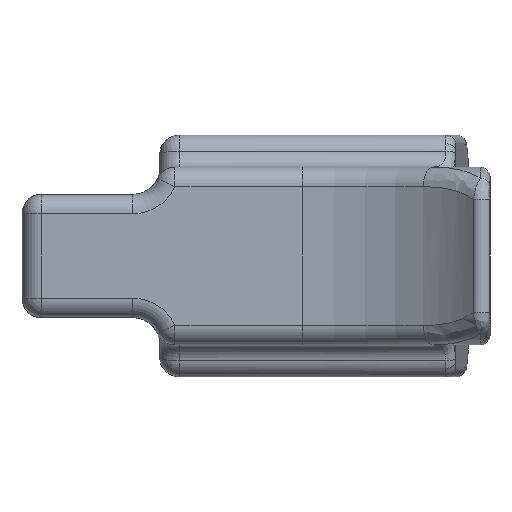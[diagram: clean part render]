
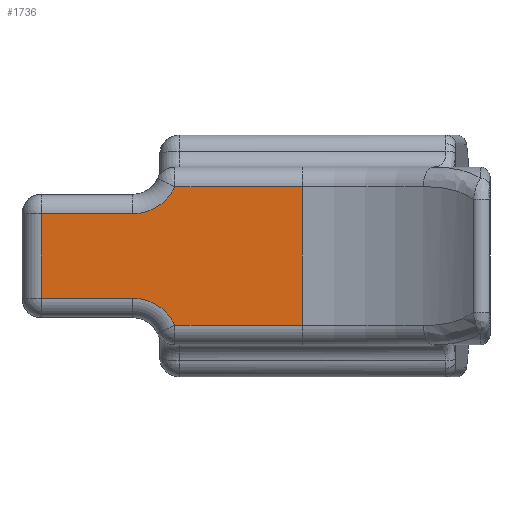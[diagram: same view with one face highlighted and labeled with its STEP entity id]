
A CAD part, left-side view. The second image highlights one B-rep face of the part: STEP entity #1736.
In plain terms, the highlighted planar face has unit normal (-1, 0, 0).
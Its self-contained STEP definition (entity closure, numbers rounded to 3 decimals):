
#34=PLANE('',#1958);
#59=LINE('',#3181,#142);
#67=LINE('',#3288,#150);
#69=LINE('',#3298,#152);
#71=LINE('',#3311,#154);
#72=LINE('',#3324,#155);
#74=LINE('',#3330,#157);
#142=VECTOR('',#2183,10.);
#150=VECTOR('',#2211,10.);
#152=VECTOR('',#2221,10.);
#154=VECTOR('',#2237,10.);
#155=VECTOR('',#2252,10.);
#157=VECTOR('',#2262,10.);
#405=FACE_OUTER_BOUND('',#526,.T.);
#526=EDGE_LOOP('',(#1421,#1422,#1423,#1424,#1425,#1426,#1427,#1428));
#627=CIRCLE('',#1879,2.401);
#632=CIRCLE('',#1886,2.401);
#758=VERTEX_POINT('',#3178);
#759=VERTEX_POINT('',#3180);
#768=VERTEX_POINT('',#3285);
#769=VERTEX_POINT('',#3291);
#772=VERTEX_POINT('',#3296);
#774=VERTEX_POINT('',#3305);
#778=VERTEX_POINT('',#3314);
#779=VERTEX_POINT('',#3316);
#930=EDGE_CURVE('',#759,#758,#59,.T.);
#947=EDGE_CURVE('',#759,#768,#67,.T.);
#951=EDGE_CURVE('',#772,#769,#69,.T.);
#953=EDGE_CURVE('',#768,#772,#627,.T.);
#958=EDGE_CURVE('',#769,#774,#71,.T.);
#960=EDGE_CURVE('',#778,#779,#632,.T.);
#964=EDGE_CURVE('',#774,#778,#72,.T.);
#968=EDGE_CURVE('',#779,#758,#74,.T.);
#1421=ORIENTED_EDGE('',*,*,#947,.F.);
#1422=ORIENTED_EDGE('',*,*,#930,.T.);
#1423=ORIENTED_EDGE('',*,*,#968,.F.);
#1424=ORIENTED_EDGE('',*,*,#960,.F.);
#1425=ORIENTED_EDGE('',*,*,#964,.F.);
#1426=ORIENTED_EDGE('',*,*,#958,.F.);
#1427=ORIENTED_EDGE('',*,*,#951,.F.);
#1428=ORIENTED_EDGE('',*,*,#953,.F.);
#1736=ADVANCED_FACE('',(#405),#34,.F.);
#1879=AXIS2_PLACEMENT_3D('',#3302,#2226,#2227);
#1886=AXIS2_PLACEMENT_3D('',#3317,#2242,#2243);
#1958=AXIS2_PLACEMENT_3D('',#3573,#2417,#2418);
#2183=DIRECTION('',(0.,0.,1.));
#2211=DIRECTION('',(0.,1.,0.));
#2221=DIRECTION('',(0.,1.,0.));
#2226=DIRECTION('center_axis',(-1.,0.,0.));
#2227=DIRECTION('ref_axis',(0.,-0.54,0.842));
#2237=DIRECTION('',(0.,0.,1.));
#2242=DIRECTION('center_axis',(-1.,0.,0.));
#2243=DIRECTION('ref_axis',(0.,-0.54,-0.842));
#2252=DIRECTION('',(0.,-1.,0.));
#2262=DIRECTION('',(0.,-1.,0.));
#2417=DIRECTION('center_axis',(1.,0.,0.));
#2418=DIRECTION('ref_axis',(0.,1.,0.));
#3178=CARTESIAN_POINT('',(532.338,160.707,17.275));
#3180=CARTESIAN_POINT('',(532.338,160.707,10.125));
#3181=CARTESIAN_POINT('',(532.338,160.707,9.125));
#3285=CARTESIAN_POINT('',(532.338,167.26,10.125));
#3288=CARTESIAN_POINT('',(532.338,158.097,10.125));
#3291=CARTESIAN_POINT('',(532.338,174.138,11.525));
#3296=CARTESIAN_POINT('',(532.338,169.442,11.525));
#3298=CARTESIAN_POINT('',(532.338,161.897,11.525));
#3302=CARTESIAN_POINT('Origin',(532.338,169.442,9.125));
#3305=CARTESIAN_POINT('',(532.338,174.138,15.875));
#3311=CARTESIAN_POINT('',(532.338,174.138,14.587));
#3314=CARTESIAN_POINT('',(532.338,169.442,15.875));
#3316=CARTESIAN_POINT('',(532.338,167.26,17.275));
#3317=CARTESIAN_POINT('Origin',(532.338,169.442,18.275));
#3324=CARTESIAN_POINT('',(532.338,161.897,15.875));
#3330=CARTESIAN_POINT('',(532.338,164.374,17.275));
#3573=CARTESIAN_POINT('Origin',(532.338,160.707,9.125));
